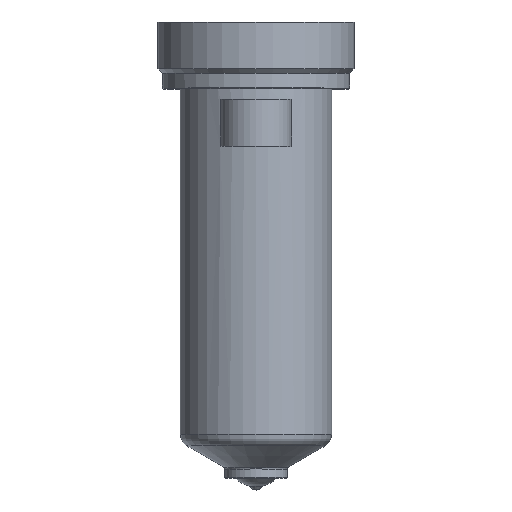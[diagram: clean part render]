
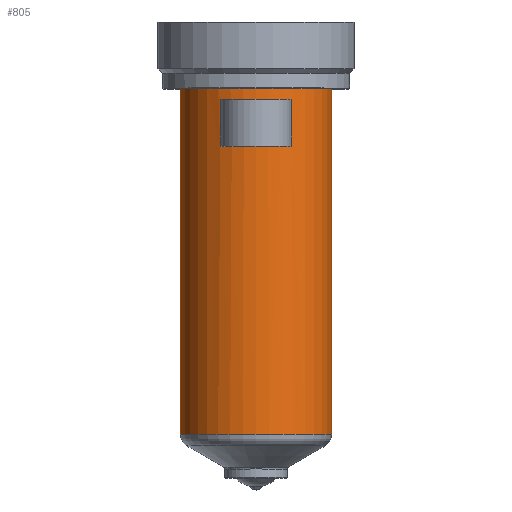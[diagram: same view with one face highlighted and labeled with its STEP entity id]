
A CAD part, top view. The second image highlights one B-rep face of the part: STEP entity #805.
In plain terms, the highlighted cylindrical face has radius 17 mm (diameter 34 mm), a partial arc.
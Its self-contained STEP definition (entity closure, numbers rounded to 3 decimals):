
#191=DIRECTION('',(0.,-1.,0.));
#192=VECTOR('',#191,77.506);
#193=CARTESIAN_POINT('',(17.,0.,0.));
#194=LINE('',#193,#192);
#195=CARTESIAN_POINT('',(0.,-77.506,0.));
#196=DIRECTION('',(0.,1.,0.));
#197=DIRECTION('',(-1.,0.,0.));
#198=AXIS2_PLACEMENT_3D('',#195,#196,#197);
#200=DIRECTION('',(0.,1.,0.));
#201=VECTOR('',#200,77.506);
#202=CARTESIAN_POINT('',(-17.,-77.506,0.));
#203=LINE('',#202,#201);
#204=CARTESIAN_POINT('',(0.,0.,0.));
#205=DIRECTION('',(0.,1.,0.));
#206=DIRECTION('',(-1.,0.,0.));
#207=AXIS2_PLACEMENT_3D('',#204,#205,#206);
#371=DIRECTION('',(0.,1.,0.));
#372=VECTOR('',#371,10.5);
#373=CARTESIAN_POINT('',(-8.,-13.,15.));
#374=LINE('',#373,#372);
#375=CARTESIAN_POINT('',(0.,-13.,0.));
#376=DIRECTION('',(0.,1.,0.));
#377=DIRECTION('',(-0.471,0.,0.882));
#378=AXIS2_PLACEMENT_3D('',#375,#376,#377);
#401=CARTESIAN_POINT('',(0.,-2.5,0.));
#402=DIRECTION('',(0.,-1.,0.));
#403=DIRECTION('',(0.471,0.,0.882));
#404=AXIS2_PLACEMENT_3D('',#401,#402,#403);
#419=DIRECTION('',(0.,1.,0.));
#420=VECTOR('',#419,10.5);
#421=CARTESIAN_POINT('',(8.,-13.,15.));
#422=LINE('',#421,#420);
#480=CARTESIAN_POINT('',(-17.,0.,0.));
#481=CARTESIAN_POINT('',(17.,0.,0.));
#482=VERTEX_POINT('',#480);
#483=VERTEX_POINT('',#481);
#492=CARTESIAN_POINT('',(-8.,-2.5,15.));
#493=VERTEX_POINT('',#492);
#494=CARTESIAN_POINT('',(8.,-2.5,15.));
#495=VERTEX_POINT('',#494);
#532=CARTESIAN_POINT('',(17.,-77.506,0.));
#533=VERTEX_POINT('',#532);
#542=CARTESIAN_POINT('',(-17.,-77.506,0.));
#543=VERTEX_POINT('',#542);
#564=CARTESIAN_POINT('',(-8.,-13.,15.));
#565=CARTESIAN_POINT('',(8.,-13.,15.));
#566=VERTEX_POINT('',#564);
#567=VERTEX_POINT('',#565);
#783=CARTESIAN_POINT('',(0.,16.4,0.));
#784=DIRECTION('',(0.,-1.,0.));
#785=DIRECTION('',(-1.,0.,0.));
#786=AXIS2_PLACEMENT_3D('',#783,#784,#785);
#787=CYLINDRICAL_SURFACE('',#786,17.);
#788=ORIENTED_EDGE('',*,*,#777,.T.);
#790=ORIENTED_EDGE('',*,*,#789,.F.);
#791=ORIENTED_EDGE('',*,*,#773,.T.);
#792=ORIENTED_EDGE('',*,*,#763,.T.);
#793=EDGE_LOOP('',(#788,#790,#791,#792));
#794=FACE_OUTER_BOUND('',#793,.F.);
#796=ORIENTED_EDGE('',*,*,#795,.F.);
#798=ORIENTED_EDGE('',*,*,#797,.T.);
#800=ORIENTED_EDGE('',*,*,#799,.T.);
#802=ORIENTED_EDGE('',*,*,#801,.T.);
#803=EDGE_LOOP('',(#796,#798,#800,#802));
#804=FACE_BOUND('',#803,.F.);
#805=ADVANCED_FACE('',(#794,#804),#787,.T.);
#199=CIRCLE('',#198,17.);
#208=CIRCLE('',#207,17.);
#379=CIRCLE('',#378,17.);
#405=CIRCLE('',#404,17.);
#763=EDGE_CURVE('',#482,#483,#208,.T.);
#773=EDGE_CURVE('',#543,#482,#203,.T.);
#777=EDGE_CURVE('',#483,#533,#194,.T.);
#789=EDGE_CURVE('',#543,#533,#199,.T.);
#795=EDGE_CURVE('',#566,#493,#374,.T.);
#797=EDGE_CURVE('',#566,#567,#379,.T.);
#799=EDGE_CURVE('',#567,#495,#422,.T.);
#801=EDGE_CURVE('',#495,#493,#405,.T.);
